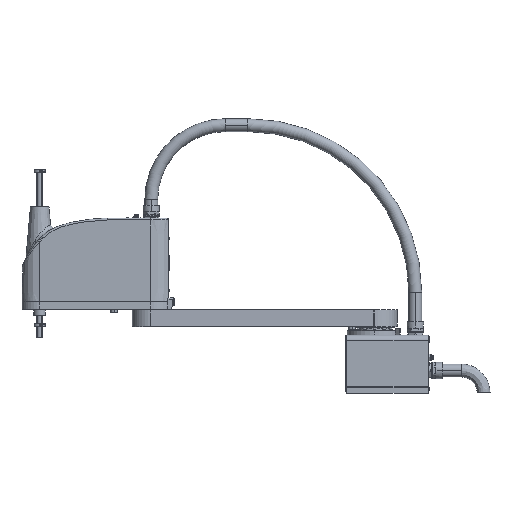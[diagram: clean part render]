
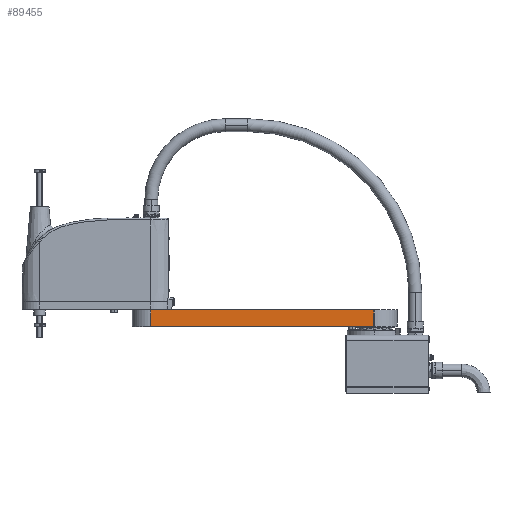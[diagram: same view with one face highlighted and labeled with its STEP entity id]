
A CAD part, top view. The second image highlights one B-rep face of the part: STEP entity #89455.
In plain terms, the highlighted planar face has unit normal (-0.018, 0, 1).
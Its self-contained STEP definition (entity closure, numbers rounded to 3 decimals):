
#3747 = VECTOR ( 'NONE', #36526, 1000. ) ;
#4045 = AXIS2_PLACEMENT_3D ( 'NONE', #76174, #23559, #69832 ) ;
#6085 = ORIENTED_EDGE ( 'NONE', *, *, #7009, .F. ) ;
#6937 = CARTESIAN_POINT ( 'NONE',  ( -1.137, 36.4, 61.99 ) ) ;
#7009 = EDGE_CURVE ( 'NONE', #83094, #41556, #24586, .T. ) ;
#7749 = ORIENTED_EDGE ( 'NONE', *, *, #85263, .F. ) ;
#13934 = VECTOR ( 'NONE', #57745, 1000. ) ;
#14815 = ORIENTED_EDGE ( 'NONE', *, *, #24636, .F. ) ;
#15316 = PLANE ( 'NONE',  #4045 ) ;
#19519 = EDGE_CURVE ( 'NONE', #25209, #91228, #84698, .T. ) ;
#23559 = DIRECTION ( 'NONE',  ( 0.018, 0., -1. ) ) ;
#24586 = LINE ( 'NONE', #95031, #13934 ) ;
#24636 = EDGE_CURVE ( 'NONE', #91228, #83094, #43082, .T. ) ;
#25209 = VERTEX_POINT ( 'NONE', #94463 ) ;
#25541 = FACE_OUTER_BOUND ( 'NONE', #78793, .T. ) ;
#29650 = LINE ( 'NONE', #87817, #47481 ) ;
#36526 = DIRECTION ( 'NONE',  ( -1., 0., -0.018 ) ) ;
#41556 = VERTEX_POINT ( 'NONE', #80516 ) ;
#43082 = LINE ( 'NONE', #93231, #70537 ) ;
#47481 = VECTOR ( 'NONE', #88473, 1000. ) ;
#47638 = DIRECTION ( 'NONE',  ( 0., 1., 0. ) ) ;
#55118 = CARTESIAN_POINT ( 'NONE',  ( -600.935, 36.4, 50.991 ) ) ;
#57745 = DIRECTION ( 'NONE',  ( 1., 0., 0.018 ) ) ;
#69832 = DIRECTION ( 'NONE',  ( -1., 0., -0.018 ) ) ;
#70537 = VECTOR ( 'NONE', #47638, 1000. ) ;
#76174 = CARTESIAN_POINT ( 'NONE',  ( -1.137, 81.4, 61.99 ) ) ;
#77210 = CARTESIAN_POINT ( 'NONE',  ( -600.935, 81.4, 50.991 ) ) ;
#78793 = EDGE_LOOP ( 'NONE', ( #7749, #6085, #14815, #89363 ) ) ;
#80516 = CARTESIAN_POINT ( 'NONE',  ( -1.137, 81.4, 61.99 ) ) ;
#83094 = VERTEX_POINT ( 'NONE', #77210 ) ;
#84698 = LINE ( 'NONE', #6937, #3747 ) ;
#85263 = EDGE_CURVE ( 'NONE', #41556, #25209, #29650, .T. ) ;
#87817 = CARTESIAN_POINT ( 'NONE',  ( -1.137, 81.4, 61.99 ) ) ;
#88473 = DIRECTION ( 'NONE',  ( 0., -1., 0. ) ) ;
#89363 = ORIENTED_EDGE ( 'NONE', *, *, #19519, .F. ) ;
#89455 = ADVANCED_FACE ( 'NONE', ( #25541 ), #15316, .F. ) ;
#91228 = VERTEX_POINT ( 'NONE', #55118 ) ;
#93231 = CARTESIAN_POINT ( 'NONE',  ( -600.935, 81.4, 50.991 ) ) ;
#94463 = CARTESIAN_POINT ( 'NONE',  ( -1.137, 36.4, 61.99 ) ) ;
#95031 = CARTESIAN_POINT ( 'NONE',  ( -600.935, 81.4, 50.991 ) ) ;
